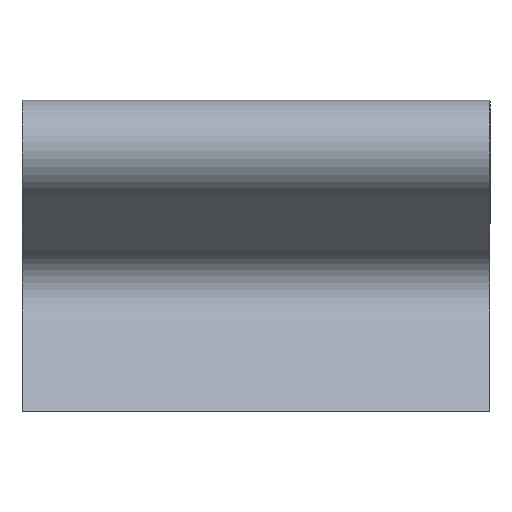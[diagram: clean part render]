
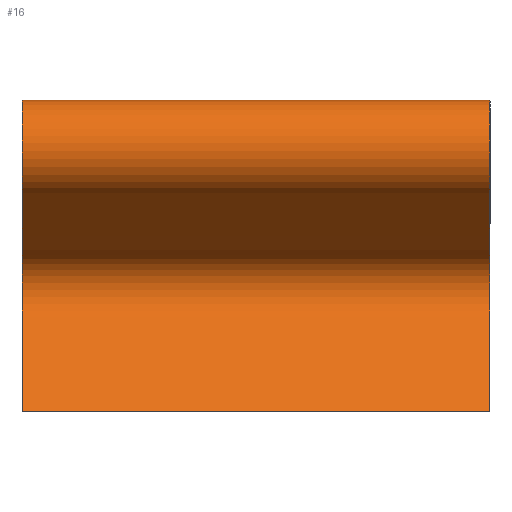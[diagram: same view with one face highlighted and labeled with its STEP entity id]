
A CAD part, left-side view. The second image highlights one B-rep face of the part: STEP entity #16.
In plain terms, the highlighted free-form (B-spline) face has degree [2, 1] with [13, 2] control points.
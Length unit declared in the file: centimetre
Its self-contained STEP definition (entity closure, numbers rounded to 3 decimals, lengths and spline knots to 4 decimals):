
#16=ADVANCED_FACE($,(#30),#156,.T.);
#30=FACE_OUTER_BOUND($,#44,.T.);
#44=EDGE_LOOP($,(#64,#65,#66,#67));
#64=ORIENTED_EDGE($,*,*,#123,.T.);
#65=ORIENTED_EDGE($,*,*,#113,.F.);
#66=ORIENTED_EDGE($,*,*,#122,.F.);
#67=ORIENTED_EDGE($,*,*,#119,.T.);
#113=EDGE_CURVE($,#140,#141,#183,.T.);
#119=EDGE_CURVE($,#144,#146,#172,.T.);
#122=EDGE_CURVE($,#144,#140,#174,.T.);
#123=EDGE_CURVE($,#146,#141,#175,.T.);
#140=VERTEX_POINT($,#578);
#141=VERTEX_POINT($,#579);
#144=VERTEX_POINT($,#582);
#146=VERTEX_POINT($,#584);
#156=(
BOUNDED_SURFACE()
B_SPLINE_SURFACE(2,1,((#466,#467),(#468,#469),(#470,#471),(#472,#473),(#474,
#475),(#476,#477),(#478,#479),(#480,#481),(#482,#483),(#484,#485),(#486,
#487),(#488,#489),(#490,#491)),.UNSPECIFIED.,.F.,.F.,.F.)
B_SPLINE_SURFACE_WITH_KNOTS((3,2,2,2,2,2,3),(2,2),(-405.9873,-389.7645,
-384.8688,-379.9732,-365.23,-356.7216,
-348.2131),(0.,60.),.UNSPECIFIED.)
GEOMETRIC_REPRESENTATION_ITEM()
RATIONAL_B_SPLINE_SURFACE(((1.,1.),(1.,1.),(1.,1.),(0.903,0.903),
(1.,1.),(0.903,0.903),(1.,1.),(1.,1.),(1.,1.),(0.793,
0.793),(1.,1.),(0.793,0.793),(1.,1.)))
REPRESENTATION_ITEM($)
SURFACE()
);
#172=(
BOUNDED_CURVE()
B_SPLINE_CURVE(1,(#350,#351),.UNSPECIFIED.,.F.,.F.)
B_SPLINE_CURVE_WITH_KNOTS((2,2),(0.,60.),.UNSPECIFIED.)
CURVE()
GEOMETRIC_REPRESENTATION_ITEM()
RATIONAL_B_SPLINE_CURVE((1.,1.))
REPRESENTATION_ITEM($)
);
#174=(
BOUNDED_CURVE()
B_SPLINE_CURVE(2,(#358,#359,#360,#361,#362,#363,#364,#365,#366,#367,#368,
#369,#370),.UNSPECIFIED.,.F.,.F.)
B_SPLINE_CURVE_WITH_KNOTS((3,2,2,2,2,2,3),(348.2131,356.7216,
365.23,379.9732,384.8688,389.7645,405.9873),
.UNSPECIFIED.)
CURVE()
GEOMETRIC_REPRESENTATION_ITEM()
RATIONAL_B_SPLINE_CURVE((1.,0.793,1.,0.793,1.,1.,
1.,0.903,1.,0.903,1.,1.,1.))
REPRESENTATION_ITEM($)
);
#175=(
BOUNDED_CURVE()
B_SPLINE_CURVE(2,(#371,#372,#373,#374,#375,#376,#377,#378,#379,#380,#381,
#382,#383),.UNSPECIFIED.,.F.,.F.)
B_SPLINE_CURVE_WITH_KNOTS((3,2,2,2,2,2,3),(348.2131,356.7216,
365.23,379.9732,384.8688,389.7645,405.9873),
.UNSPECIFIED.)
CURVE()
GEOMETRIC_REPRESENTATION_ITEM()
RATIONAL_B_SPLINE_CURVE((1.,0.793,1.,0.793,1.,1.,
1.,0.903,1.,0.903,1.,1.,1.))
REPRESENTATION_ITEM($)
);
#183=B_SPLINE_CURVE_WITH_KNOTS($,1,(#314,#315),.UNSPECIFIED.,.F.,.F.,(2,
2),(0.,60.),.UNSPECIFIED.);
#314=CARTESIAN_POINT($,(-258.5,0.,0.));
#315=CARTESIAN_POINT($,(-258.5,60.,0.));
#350=CARTESIAN_POINT($,(-258.5,0.,40.));
#351=CARTESIAN_POINT($,(-258.5,60.,40.));
#358=CARTESIAN_POINT($,(-258.5,0.,40.));
#359=CARTESIAN_POINT($,(-263.4876,0.,40.));
#360=CARTESIAN_POINT($,(-264.7785,0.,35.1823));
#361=CARTESIAN_POINT($,(-266.0694,0.,30.3646));
#362=CARTESIAN_POINT($,(-261.75,0.,27.8708));
#363=CARTESIAN_POINT($,(-255.366,0.,24.1851));
#364=CARTESIAN_POINT($,(-248.9821,0.,20.4993));
#365=CARTESIAN_POINT($,(-246.7102,0.,19.1876));
#366=CARTESIAN_POINT($,(-246.2998,0.,16.5965));
#367=CARTESIAN_POINT($,(-245.8894,0.,14.0055));
#368=CARTESIAN_POINT($,(-247.6448,0.,12.0559));
#369=CARTESIAN_POINT($,(-253.0724,0.,6.028));
#370=CARTESIAN_POINT($,(-258.5,0.,0.));
#371=CARTESIAN_POINT($,(-258.5,60.,40.));
#372=CARTESIAN_POINT($,(-263.4876,60.,40.));
#373=CARTESIAN_POINT($,(-264.7785,60.,35.1823));
#374=CARTESIAN_POINT($,(-266.0694,60.,30.3646));
#375=CARTESIAN_POINT($,(-261.75,60.,27.8708));
#376=CARTESIAN_POINT($,(-255.366,60.,24.1851));
#377=CARTESIAN_POINT($,(-248.9821,60.,20.4993));
#378=CARTESIAN_POINT($,(-246.7102,60.,19.1876));
#379=CARTESIAN_POINT($,(-246.2998,60.,16.5965));
#380=CARTESIAN_POINT($,(-245.8894,60.,14.0055));
#381=CARTESIAN_POINT($,(-247.6448,60.,12.0559));
#382=CARTESIAN_POINT($,(-253.0724,60.,6.028));
#383=CARTESIAN_POINT($,(-258.5,60.,0.));
#466=CARTESIAN_POINT($,(-258.5,0.,0.));
#467=CARTESIAN_POINT($,(-258.5,60.,0.));
#468=CARTESIAN_POINT($,(-253.0724,0.,6.028));
#469=CARTESIAN_POINT($,(-253.0724,60.,6.028));
#470=CARTESIAN_POINT($,(-247.6448,0.,12.0559));
#471=CARTESIAN_POINT($,(-247.6448,60.,12.0559));
#472=CARTESIAN_POINT($,(-245.8894,0.,14.0055));
#473=CARTESIAN_POINT($,(-245.8894,60.,14.0055));
#474=CARTESIAN_POINT($,(-246.2998,0.,16.5965));
#475=CARTESIAN_POINT($,(-246.2998,60.,16.5965));
#476=CARTESIAN_POINT($,(-246.7102,0.,19.1876));
#477=CARTESIAN_POINT($,(-246.7102,60.,19.1876));
#478=CARTESIAN_POINT($,(-248.9821,0.,20.4993));
#479=CARTESIAN_POINT($,(-248.9821,60.,20.4993));
#480=CARTESIAN_POINT($,(-255.366,0.,24.1851));
#481=CARTESIAN_POINT($,(-255.366,60.,24.1851));
#482=CARTESIAN_POINT($,(-261.75,0.,27.8708));
#483=CARTESIAN_POINT($,(-261.75,60.,27.8708));
#484=CARTESIAN_POINT($,(-266.0694,0.,30.3646));
#485=CARTESIAN_POINT($,(-266.0694,60.,30.3646));
#486=CARTESIAN_POINT($,(-264.7785,0.,35.1823));
#487=CARTESIAN_POINT($,(-264.7785,60.,35.1823));
#488=CARTESIAN_POINT($,(-263.4876,0.,40.));
#489=CARTESIAN_POINT($,(-263.4876,60.,40.));
#490=CARTESIAN_POINT($,(-258.5,0.,40.));
#491=CARTESIAN_POINT($,(-258.5,60.,40.));
#578=CARTESIAN_POINT($,(-258.5,0.,0.));
#579=CARTESIAN_POINT($,(-258.5,60.,0.));
#582=CARTESIAN_POINT($,(-258.5,0.,40.));
#584=CARTESIAN_POINT($,(-258.5,60.,40.));
